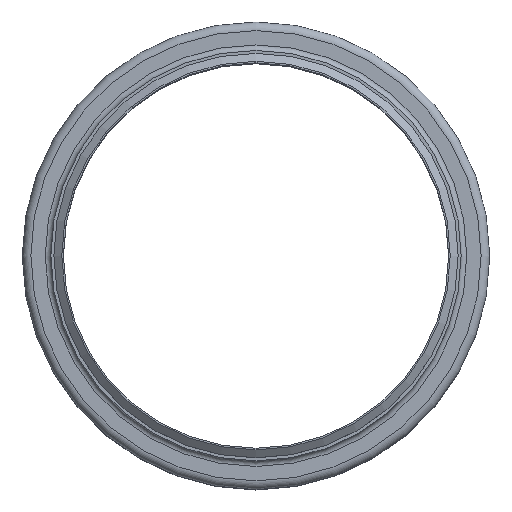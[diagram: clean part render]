
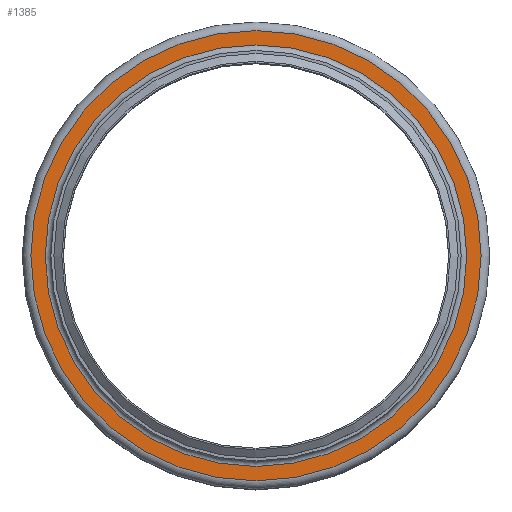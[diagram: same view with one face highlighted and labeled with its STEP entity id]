
A CAD part, top view. The second image highlights one B-rep face of the part: STEP entity #1385.
In plain terms, the highlighted planar face has unit normal (0, 0, 1).
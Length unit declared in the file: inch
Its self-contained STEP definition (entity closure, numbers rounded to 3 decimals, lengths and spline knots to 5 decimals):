
#155=FACE_BOUND('',#416,.T.);
#256=FACE_OUTER_BOUND('',#415,.T.);
#415=EDGE_LOOP('',(#1168));
#416=EDGE_LOOP('',(#1169));
#584=CIRCLE('',#1684,8.34125);
#585=CIRCLE('',#1686,8.90875);
#703=VERTEX_POINT('',#2631);
#704=VERTEX_POINT('',#2635);
#862=EDGE_CURVE('',#703,#703,#584,.T.);
#863=EDGE_CURVE('',#704,#704,#585,.T.);
#1168=ORIENTED_EDGE('',*,*,#863,.F.);
#1169=ORIENTED_EDGE('',*,*,#862,.T.);
#1284=PLANE('',#1685);
#1385=ADVANCED_FACE('',(#256,#155),#1284,.T.);
#1684=AXIS2_PLACEMENT_3D('',#2633,#2197,#2198);
#1685=AXIS2_PLACEMENT_3D('',#2634,#2199,#2200);
#1686=AXIS2_PLACEMENT_3D('',#2636,#2201,#2202);
#2197=DIRECTION('center_axis',(0.,0.,-1.));
#2198=DIRECTION('ref_axis',(1.,0.,0.));
#2199=DIRECTION('center_axis',(0.,0.,1.));
#2200=DIRECTION('ref_axis',(1.,0.,0.));
#2201=DIRECTION('center_axis',(0.,0.,-1.));
#2202=DIRECTION('ref_axis',(1.,0.,0.));
#2631=CARTESIAN_POINT('',(8.34125,0.,-0.22125));
#2633=CARTESIAN_POINT('Origin',(0.,0.,-0.22125));
#2634=CARTESIAN_POINT('Origin',(0.,8.90875,-0.22125));
#2635=CARTESIAN_POINT('',(8.90875,0.,-0.22125));
#2636=CARTESIAN_POINT('Origin',(0.,0.,-0.22125));
